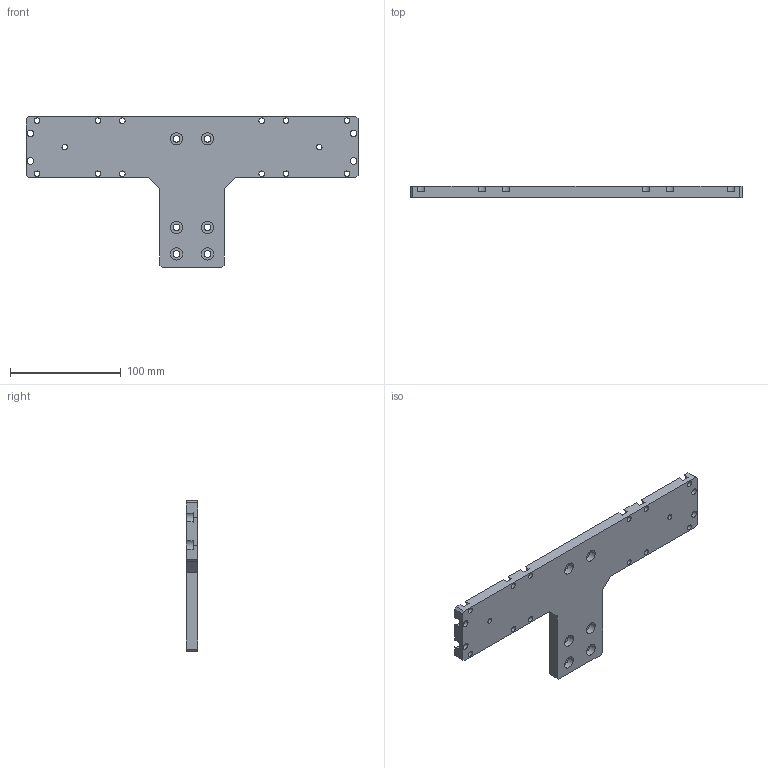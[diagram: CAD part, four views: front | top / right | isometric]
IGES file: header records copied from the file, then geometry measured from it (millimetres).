
Start section:  PTC IGES file: k60-k60l-st.igs
Global section: file name: k60-k60l-st.igs; native system: Pro/ENGINEER by Parametric Technology Corporation; preprocessor: 2008230; author: Owner; organization: Unknown; date: 20121211.145833; units: millimetre
Bounding box: 300 x 10 x 136 mm (x, y, z)
Surface area: 54816 mm2 (no closed solid volume)
Topology: 0 solids, 0 shells, 122 faces, 672 edges, 672 vertices
Faces by surface type: revolution 80, bspline 42
